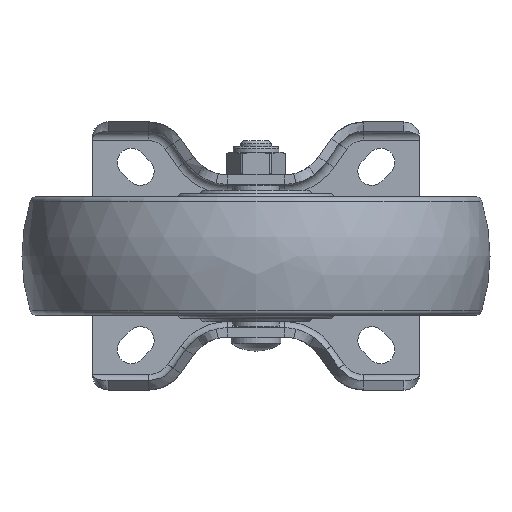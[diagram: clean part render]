
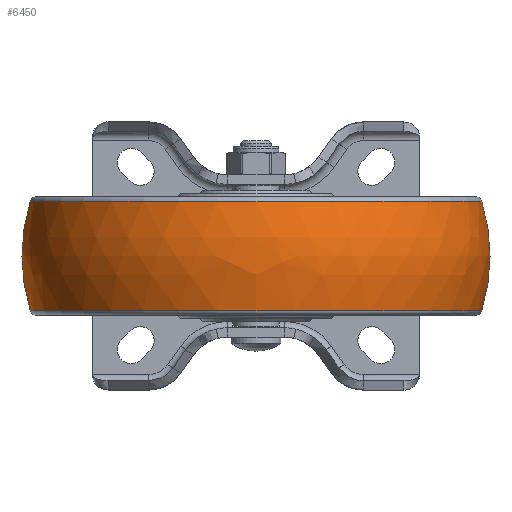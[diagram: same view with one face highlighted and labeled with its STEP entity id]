
A CAD part, front view. The second image highlights one B-rep face of the part: STEP entity #6450.
In plain terms, the highlighted free-form (B-spline) face has degree [3, 3] with [7, 4] control points.
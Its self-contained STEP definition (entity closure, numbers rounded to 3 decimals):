
#5693=CARTESIAN_POINT('',(-106.116,13.994,0.));
#5694=DIRECTION('',(-1.,0.,0.));
#5695=DIRECTION('',(0.,1.,0.));
#5696=AXIS2_PLACEMENT_3D('',#5693,#5694,#5695);
#5698=CARTESIAN_POINT('',(-88.53,28.994,0.));
#5699=DIRECTION('',(0.,0.,1.));
#5700=DIRECTION('',(0.293,0.956,0.));
#5701=AXIS2_PLACEMENT_3D('',#5698,#5699,#5700);
#5703=CARTESIAN_POINT('',(-88.53,-1.006,0.));
#5704=DIRECTION('',(0.,0.,-1.));
#5705=DIRECTION('',(0.293,-0.956,0.));
#5706=AXIS2_PLACEMENT_3D('',#5703,#5704,#5705);
#5708=CARTESIAN_POINT('',(-70.943,13.994,0.));
#5709=DIRECTION('',(-1.,0.,0.));
#5710=DIRECTION('',(0.,1.,0.));
#5711=AXIS2_PLACEMENT_3D('',#5708,#5709,#5710);
#5989=CARTESIAN_POINT('',(-70.943,86.359,0.));
#5991=VERTEX_POINT('',#5989);
#5992=CARTESIAN_POINT('',(-106.116,86.359,0.));
#5993=VERTEX_POINT('',#5992);
#6029=CARTESIAN_POINT('',(-70.943,-58.37,
0.));
#6031=VERTEX_POINT('',#6029);
#6032=CARTESIAN_POINT('',(-106.116,-58.37,
0.));
#6033=VERTEX_POINT('',#6032);
#6412=CARTESIAN_POINT('',(-106.797,-58.015,
4.53));
#6413=CARTESIAN_POINT('',(-94.818,-61.836,
4.771));
#6414=CARTESIAN_POINT('',(-82.241,-61.836,
4.771));
#6415=CARTESIAN_POINT('',(-70.262,-58.015,
4.53));
#6416=CARTESIAN_POINT('',(-106.797,-60.803,
-39.784));
#6417=CARTESIAN_POINT('',(-94.818,-64.772,
-41.895));
#6418=CARTESIAN_POINT('',(-82.241,-64.772,
-41.895));
#6419=CARTESIAN_POINT('',(-70.262,-60.803,
-39.784));
#6420=CARTESIAN_POINT('',(-106.797,-30.408,
-72.152));
#6421=CARTESIAN_POINT('',(-94.818,-32.764,
-75.981));
#6422=CARTESIAN_POINT('',(-82.241,-32.764,
-75.981));
#6423=CARTESIAN_POINT('',(-70.262,-30.408,
-72.152));
#6424=CARTESIAN_POINT('',(-106.797,13.994,
-72.152));
#6425=CARTESIAN_POINT('',(-94.818,13.994,
-75.981));
#6426=CARTESIAN_POINT('',(-82.241,13.994,
-75.981));
#6427=CARTESIAN_POINT('',(-70.262,13.994,
-72.152));
#6428=CARTESIAN_POINT('',(-106.797,58.396,
-72.152));
#6429=CARTESIAN_POINT('',(-94.818,60.753,
-75.981));
#6430=CARTESIAN_POINT('',(-82.241,60.753,
-75.981));
#6431=CARTESIAN_POINT('',(-70.262,58.396,
-72.152));
#6432=CARTESIAN_POINT('',(-106.797,88.792,
-39.784));
#6433=CARTESIAN_POINT('',(-94.818,92.761,
-41.895));
#6434=CARTESIAN_POINT('',(-82.241,92.761,
-41.895));
#6435=CARTESIAN_POINT('',(-70.262,88.792,
-39.784));
#6436=CARTESIAN_POINT('',(-106.797,86.004,4.53));
#6437=CARTESIAN_POINT('',(-94.818,89.825,4.771));
#6438=CARTESIAN_POINT('',(-82.241,89.825,4.771));
#6439=CARTESIAN_POINT('',(-70.262,86.004,4.53));
#6440=(BOUNDED_SURFACE()B_SPLINE_SURFACE(3,3,((#6412,#6413,#6414,#6415),(#6416,
#6417,#6418,#6419),(#6420,#6421,#6422,#6423),(#6424,#6425,#6426,#6427),(#6428,
#6429,#6430,#6431),(#6432,#6433,#6434,#6435),(#6436,#6437,#6438,#6439)),
.UNSPECIFIED.,.F.,.F.,.F.)B_SPLINE_SURFACE_WITH_KNOTS((4,3,4),(4,4),(0.,1.,
2.),(0.,1.),.UNSPECIFIED.)GEOMETRIC_REPRESENTATION_ITEM()RATIONAL_B_SPLINE_SURFACE(((1.216,1.178,1.178,1.216),(
0.96,0.93,0.93,0.96),(
0.96,0.93,0.93,0.96),(
1.216,1.178,1.178,1.216),(
0.96,0.93,0.93,0.96),(
0.96,0.93,0.93,0.96),(
1.216,1.178,1.178,1.216)))REPRESENTATION_ITEM('')SURFACE());
#6442=ORIENTED_EDGE('',*,*,#6441,.T.);
#6443=ORIENTED_EDGE('',*,*,#6407,.T.);
#6445=ORIENTED_EDGE('',*,*,#6444,.F.);
#6447=ORIENTED_EDGE('',*,*,#6446,.F.);
#6448=EDGE_LOOP('',(#6442,#6443,#6445,#6447));
#6449=FACE_OUTER_BOUND('',#6448,.F.);
#5697=CIRCLE('',#5696,72.365);
#5702=CIRCLE('',#5701,60.);
#5707=CIRCLE('',#5706,60.);
#5712=CIRCLE('',#5711,72.365);
#6407=EDGE_CURVE('',#5993,#6033,#5697,.T.);
#6441=EDGE_CURVE('',#5991,#5993,#5702,.T.);
#6444=EDGE_CURVE('',#6031,#6033,#5707,.T.);
#6446=EDGE_CURVE('',#5991,#6031,#5712,.T.);
#6450=ADVANCED_FACE('',(#6449),#6440,.T.);
